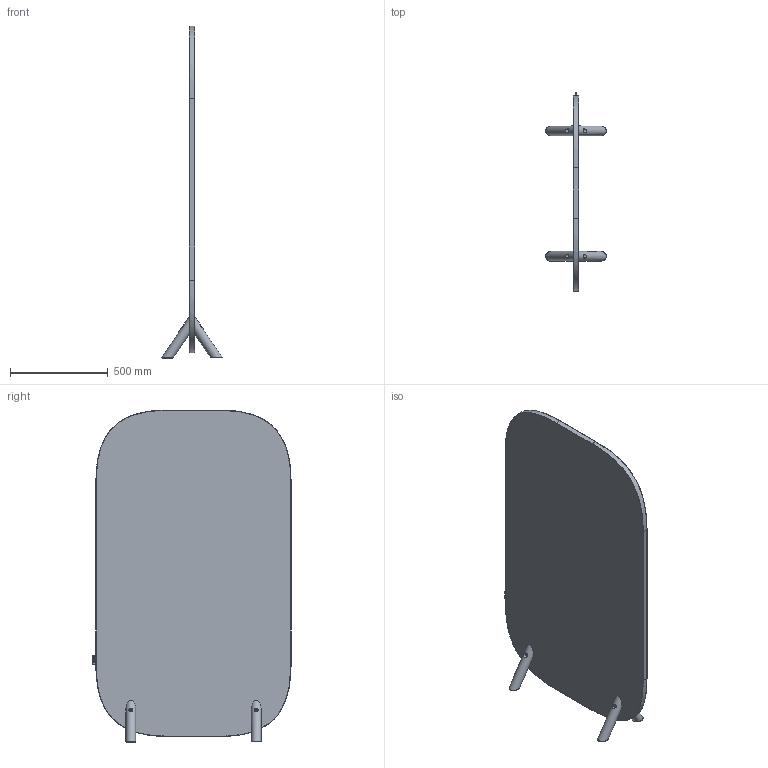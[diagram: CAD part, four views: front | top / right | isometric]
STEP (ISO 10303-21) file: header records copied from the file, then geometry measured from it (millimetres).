
FILE_DESCRIPTION(/* description */ ('','CAx-IF Rec.Pracs.---Representation and Presentation of Product Manufacturing Information (PMI)---4.0---2014-10-13'),/* implementation_level */ '2;1');
FILE_NAME(/* name */ 'SHADE_TIMBER_L_STEP.step',/* time_stamp */ '2025-01-14T15:26:12+01:00',/* author */ (''),/* organization */ (''),/* preprocessor_version */ 'ST-DEVELOPER v20',/* originating_system */ 'Autodesk Translation Framework v13.20.0.188',/* authorisation */ '');
FILE_SCHEMA (('AP242_MANAGED_MODEL_BASED_3D_ENGINEERING_MIM_LF { 1 0 10303 442 1 1 4 }'));
Length unit declared in the file: millimetre
Products named in the file (8): 1.0_S_TIMBER_L; Components; 1.1_S_TIMBER_L; 1.1.3_S_TIMBER_L; Štítek SLB v3; 1.2_S_TIMBER_L; SHADE TIMBER/HEAVY_noha Ø 50MM v12
Assembly tree (13 placements, depth 4):
  1.0_S_TIMBER_L
    Components
      1.1_S_TIMBER_L
        1.1.3_S_TIMBER_L
        Štítek SLB v3
      1.2_S_TIMBER_L
            x4
      SHADE TIMBER/HEAVY_noha Ø 50MM v12  x4
Bounding box: 310.4 x 1015 x 1700 mm (x, y, z)
Volume: 4867166.7 mm3; surface area: 6761050.8 mm2
Topology: 30 solids, 30 shells, 470 faces, 1140 edges, 756 vertices
Faces by surface type: plane 230, bspline 184, cylinder 48, cone 8
Full cylindrical faces by diameter (mm): 5.035 x4, 8 x12, 8.3 x8, 9 x4, 9.2 x4, 17 x4, 20 x4, 50 x4
Entity records: 13884 total; most frequent: CARTESIAN_POINT 4930, ORIENTED_EDGE 1992, DIRECTION 1438, EDGE_CURVE 996, VERTEX_POINT 663, LINE 584, VECTOR 584, EDGE_LOOP 433
